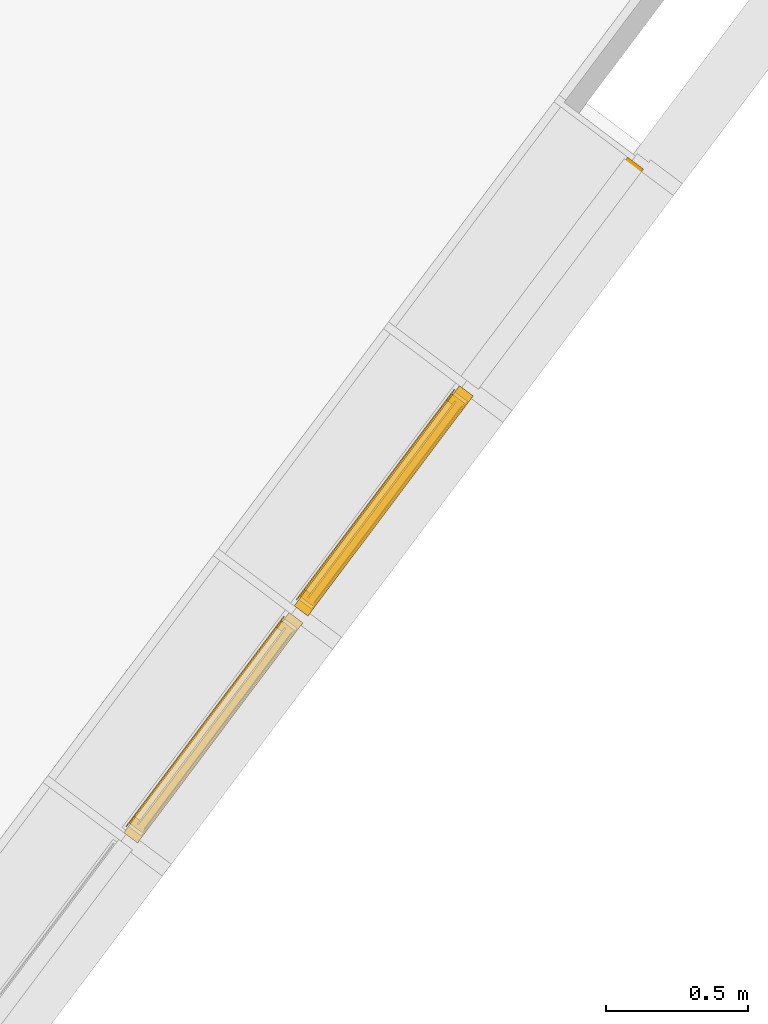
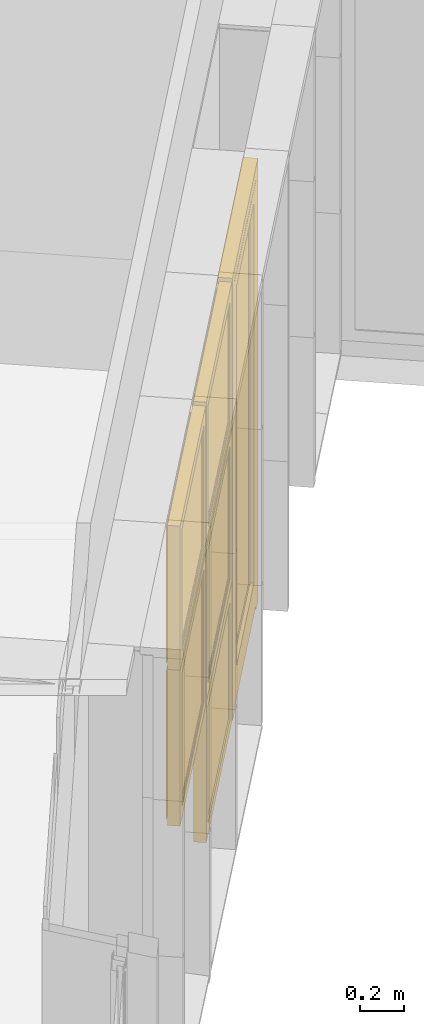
# One storey, part 201 of 243: 5 windows, 1 door, 1 element without a shape of its own.
"""IFC2X3 building model written with IfcOpenShell, lengths in metres."""

from ifc_helpers import new_model, entity, si_unit, converted_unit, derived_unit, direction, frame, origin, place, context, subcontext, project, spatial, faceted_brep, source, transform, mapped, material, material_list, type_object, type_shapes, element, aggregate, save


model = new_model("IFC2X3")

# Units and contexts
model_context = context("Model", 3, precision=1e-05, world=origin(), true_north=direction((6.123031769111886e-17, 1.0)))
body_context = subcontext(model_context, "Body", "Model", "MODEL_VIEW")
ifc_project = project(units=[si_unit("LENGTHUNIT", "METRE"), si_unit("AREAUNIT", "SQUARE_METRE"), si_unit("VOLUMEUNIT", "CUBIC_METRE"), converted_unit("PLANEANGLEUNIT", "DEGREE", entity("IfcRatioMeasure", 0.017453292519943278), si_unit("PLANEANGLEUNIT", "RADIAN"), dimensions=[0, 0, 0, 0, 0, 0, 0]), si_unit("MASSUNIT", "GRAM", prefix="KILO"), derived_unit("MASSDENSITYUNIT", [(si_unit("MASSUNIT", "GRAM", prefix="KILO"), 1), (si_unit("LENGTHUNIT", "METRE"), -3)]), derived_unit("IONCONCENTRATIONUNIT", [(si_unit("MASSUNIT", "GRAM", prefix="KILO"), 1), (si_unit("LENGTHUNIT", "METRE"), -3)]), derived_unit("MOMENTOFINERTIAUNIT", [(si_unit("LENGTHUNIT", "METRE"), 4)]), si_unit("TIMEUNIT", "SECOND"), si_unit("FREQUENCYUNIT", "HERTZ"), si_unit("THERMODYNAMICTEMPERATUREUNIT", "DEGREE_CELSIUS"), derived_unit("THERMALTRANSMITTANCEUNIT", [(si_unit("MASSUNIT", "GRAM", prefix="KILO"), 1), (si_unit("THERMODYNAMICTEMPERATUREUNIT", "KELVIN"), -1), (si_unit("TIMEUNIT", "SECOND"), -3)]), derived_unit("THERMALCONDUCTANCEUNIT", [(si_unit("MASSUNIT", "GRAM", prefix="KILO"), 1), (si_unit("THERMODYNAMICTEMPERATUREUNIT", "KELVIN"), -1), (si_unit("TIMEUNIT", "SECOND"), -3), (si_unit("LENGTHUNIT", "METRE"), 1)]), derived_unit("VOLUMETRICFLOWRATEUNIT", [(si_unit("LENGTHUNIT", "METRE"), 3), (si_unit("TIMEUNIT", "SECOND"), -1)]), derived_unit("MASSFLOWRATEUNIT", [(si_unit("MASSUNIT", "GRAM", prefix="KILO"), 1), (si_unit("TIMEUNIT", "SECOND"), -1)]), derived_unit("ROTATIONALFREQUENCYUNIT", [(si_unit("TIMEUNIT", "SECOND"), -1)]), si_unit("ELECTRICCURRENTUNIT", "AMPERE"), si_unit("ELECTRICVOLTAGEUNIT", "VOLT"), si_unit("POWERUNIT", "WATT"), si_unit("FORCEUNIT", "NEWTON", prefix="KILO"), si_unit("ILLUMINANCEUNIT", "LUX"), si_unit("LUMINOUSFLUXUNIT", "LUMEN"), si_unit("LUMINOUSINTENSITYUNIT", "CANDELA"), derived_unit("USERDEFINED", [(si_unit("MASSUNIT", "GRAM", prefix="KILO"), -1), (si_unit("LENGTHUNIT", "METRE"), -2), (si_unit("TIMEUNIT", "SECOND"), 3), (si_unit("LUMINOUSFLUXUNIT", "LUMEN"), 1)]), derived_unit("USERDEFINED", [(si_unit("MASSUNIT", "GRAM", prefix="KILO"), 1), (si_unit("TIMEUNIT", "SECOND"), -3), (si_unit("LENGTHUNIT", "METRE"), 3), (si_unit("ELECTRICCURRENTUNIT", "AMPERE"), -2)]), derived_unit("SOUNDPOWERUNIT", [(si_unit("MASSUNIT", "GRAM", prefix="KILO"), 1), (si_unit("TIMEUNIT", "SECOND"), -3), (si_unit("LENGTHUNIT", "METRE"), 2)]), derived_unit("SOUNDPRESSUREUNIT", [(si_unit("MASSUNIT", "GRAM", prefix="KILO"), 1), (si_unit("LENGTHUNIT", "METRE"), -1), (si_unit("TIMEUNIT", "SECOND"), -2)]), derived_unit("LINEARVELOCITYUNIT", [(si_unit("LENGTHUNIT", "METRE"), 1), (si_unit("TIMEUNIT", "SECOND"), -1)]), si_unit("PRESSUREUNIT", "PASCAL"), derived_unit("USERDEFINED", [(si_unit("MASSUNIT", "GRAM", prefix="KILO"), 1), (si_unit("LENGTHUNIT", "METRE"), -2), (si_unit("TIMEUNIT", "SECOND"), -2)]), derived_unit("LINEARFORCEUNIT", [(si_unit("MASSUNIT", "GRAM", prefix="KILO"), 1), (si_unit("TIMEUNIT", "SECOND"), -2)]), derived_unit("PLANARFORCEUNIT", [(si_unit("MASSUNIT", "GRAM", prefix="KILO"), 1), (si_unit("LENGTHUNIT", "METRE"), -1), (si_unit("TIMEUNIT", "SECOND"), -2)]), derived_unit("SPECIFICHEATCAPACITYUNIT", [(si_unit("THERMODYNAMICTEMPERATUREUNIT", "KELVIN"), -1), (si_unit("LENGTHUNIT", "METRE"), 2), (si_unit("TIMEUNIT", "SECOND"), -2)]), derived_unit("HEATINGVALUEUNIT", [(si_unit("LENGTHUNIT", "METRE"), 2), (si_unit("TIMEUNIT", "SECOND"), -2)]), derived_unit("VAPORPERMEABILITYUNIT", [(si_unit("LENGTHUNIT", "METRE"), -1), (si_unit("TIMEUNIT", "SECOND"), 1)]), derived_unit("DYNAMICVISCOSITYUNIT", [(si_unit("MASSUNIT", "GRAM", prefix="KILO"), 1), (si_unit("TIMEUNIT", "SECOND"), -1), (si_unit("LENGTHUNIT", "METRE"), -1)]), derived_unit("THERMALEXPANSIONCOEFFICIENTUNIT", [(si_unit("THERMODYNAMICTEMPERATUREUNIT", "KELVIN"), -1)]), derived_unit("MODULUSOFELASTICITYUNIT", [(si_unit("MASSUNIT", "GRAM", prefix="KILO"), 1), (si_unit("LENGTHUNIT", "METRE"), -1), (si_unit("TIMEUNIT", "SECOND"), -2)]), derived_unit("ISOTHERMALMOISTURECAPACITYUNIT", [(si_unit("LENGTHUNIT", "METRE"), 3), (si_unit("MASSUNIT", "GRAM", prefix="KILO"), -1)]), derived_unit("MOISTUREDIFFUSIVITYUNIT", [(si_unit("TIMEUNIT", "SECOND"), -1), (si_unit("LENGTHUNIT", "METRE"), 2)])], contexts=[model_context])

# Site, building, storey
site_placement = place(None, frame((0.0, 0.0, 235.0), z_axis=(0.0, 0.0, 1.0), x_axis=(-0.7996477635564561, 0.6004693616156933, 0.0)))
site = spatial("IfcSite", under=ifc_project, at=site_placement, Name="Default", CompositionType="ELEMENT")
building_placement = place(site_placement, origin())
building = spatial("IfcBuilding", under=site, at=building_placement, CompositionType="ELEMENT")
storey_placement = place(building_placement, origin())
storey = spatial("IfcBuildingStorey", under=building, at=storey_placement, Name="P0- Escola", CompositionType="ELEMENT", Elevation=0.0)

# Curtain wall, windows, door
curtain_wall_type = type_object("IfcCurtainWallType", Name="Muro cortina:MC- EXT- MC2", PredefinedType="NOTDEFINED")
curtain_wall_placement = place(storey_placement, origin())
curtain_wall = element("IfcCurtainWall", 1, at=curtain_wall_placement, inside=storey, type_object=curtain_wall_type, Name="Muro cortina:MC- EXT- MC2", ObjectType="Muro cortina:MC- EXT- MC2")
ifc_material_1 = material(Name="_Vidre")
ifc_material_2 = material(Name="_Alumini- T1- Perfil")
ifc_material_list_1 = material_list([ifc_material_1, ifc_material_2])
window_style_1 = type_object("IfcWindowStyle", Name="MC- Alu- Conjunt vidre fix- 62x60 cm:MC- Alu- Conjunt vidre fix- 62x60 cm", ConstructionType="NOTDEFINED", OperationType="NOTDEFINED", ParameterTakesPrecedence=False, Sizeable=False, material=ifc_material_list_1)
shared_shape_1 = source(origin(), body_context, "Body", "Brep", [
    faceted_brep([(0.4361932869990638, -0.007600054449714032, 0.048806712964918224), (0.4361932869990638, -0.03160022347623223, 0.048806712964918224), (-0.4361932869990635, -0.03160022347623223, 0.048806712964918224), (-0.4361932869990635, -0.007600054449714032, 0.048806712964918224), (0.4361932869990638, -0.007600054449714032, 0.7387000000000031), (-0.4361932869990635, -0.007600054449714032, 0.7387000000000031), (-0.4361932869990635, -0.03160022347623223, 0.7387000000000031), (0.4361932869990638, -0.03160022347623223, 0.7387000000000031)], [[[0, 1, 2, 3]], [[4, 0, 3, 5]], [[5, 3, 2, 6]], [[6, 2, 1, 7]], [[7, 1, 0, 4]], [[4, 5, 6, 7]]]),
    faceted_brep([(0.48499999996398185, -0.05999999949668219, 0.7877000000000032), (0.48499999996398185, -0.05999999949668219, 0.0), (0.48499999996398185, 0.0, 0.0), (0.48499999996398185, 0.0, 0.787700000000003), (-0.48499999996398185, 0.0, 0.7877000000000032), (-0.48499999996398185, 0.0, 0.0), (0.4221931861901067, 0.0, 0.7248931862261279), (-0.42219318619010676, 0.0, 0.724893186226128), (-0.4221931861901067, 0.0, 0.0628068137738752), (0.4221931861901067, 0.0, 0.06280681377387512), (-0.48499999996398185, -0.05999999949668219, 0.0), (-0.48499999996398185, -0.05999999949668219, 0.7877000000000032), (-0.42219603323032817, -0.05999999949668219, 0.7248960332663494), (0.42219603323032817, -0.05999999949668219, 0.7248960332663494), (0.42219603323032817, -0.05999999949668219, 0.0628039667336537), (-0.42219603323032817, -0.05999999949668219, 0.0628039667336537), (0.4221960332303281, -0.03160022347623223, 0.7248960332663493), (0.42219603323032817, -0.03160022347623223, 0.0628039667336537), (-0.42219603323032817, -0.03160022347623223, 0.06280396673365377), (-0.42219603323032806, -0.03160022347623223, 0.7248960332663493), (-0.43619328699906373, -0.03160022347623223, 0.738893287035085), (0.43619328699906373, -0.03160022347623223, 0.738893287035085), (0.43619328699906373, -0.03160022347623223, 0.048806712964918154), (-0.43619328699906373, -0.03160022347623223, 0.04880671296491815), (0.43619328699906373, -0.007600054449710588, 0.738893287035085), (0.43619328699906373, -0.007600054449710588, 0.04880671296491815), (-0.43619328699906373, -0.007600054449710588, 0.048806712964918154), (-0.43619328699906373, -0.007600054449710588, 0.738893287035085), (-0.42219318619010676, -0.007600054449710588, 0.724893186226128), (0.42219318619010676, -0.007600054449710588, 0.724893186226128), (0.42219318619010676, -0.007600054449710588, 0.06280681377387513), (-0.42219318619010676, -0.007600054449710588, 0.06280681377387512)], [[[0, 1, 2, 3]], [[4, 3, 2, 5], [6, 7, 8, 9]], [[1, 10, 5, 2]], [[0, 11, 10, 1], [12, 13, 14, 15]], [[16, 17, 14, 13]], [[17, 18, 15, 14]], [[16, 19, 18, 17], [20, 21, 22, 23]], [[24, 25, 22, 21]], [[25, 26, 23, 22]], [[24, 27, 26, 25], [28, 29, 30, 31]], [[6, 9, 30, 29]], [[9, 8, 31, 30]], [[10, 11, 4, 5]], [[18, 19, 12, 15]], [[26, 27, 20, 23]], [[8, 7, 28, 31]], [[11, 0, 3, 4]], [[19, 16, 13, 12]], [[27, 24, 21, 20]], [[7, 6, 29, 28]]], outer=[[True], [True, False], [True], [True, False], [True], [True], [False, True], [True], [True], [True, False], [True], [True], [True], [True], [True], [True], [True], [True], [True], [True]]),
])
type_shapes(window_style_1, [shared_shape_1])
window_1_placement = place(curtain_wall_placement, frame((66.44514768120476, -32.91519175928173, 0.03229999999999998), z_axis=(0.0, 0.0, 1.0), x_axis=(0.0, 1.0, 0.0)))
window_1 = element("IfcWindow", 2, at=window_1_placement, type_object=window_style_1, material=ifc_material_list_1, Name="MC- Alu- Conjunt vidre fix- 62x60 cm:MC- Alu- Conjunt vidre fix- 62x60 cm", ObjectType="MC- Alu- Conjunt vidre fix- 62x60 cm:MC- Alu- Conjunt vidre fix- 62x60 cm", OverallHeight=0.7877000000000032, OverallWidth=0.9699999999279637, context=body_context, shape_type="MappedRepresentation", body=[
    mapped(shared_shape_1, transform((0.0, 0.0, 0.0), scale=1.0)),
])
ifc_material_list_2 = material_list([ifc_material_2, ifc_material_1])
door_style = type_object("IfcDoorStyle", Name="MC- Alu- Conjunt porta- 70x60 cm- +15cm- obertura int:MC- Alu- Conjunt porta- 70x60 cm- +15cm- obertura int", ConstructionType="NOTDEFINED", OperationType="NOTDEFINED", ParameterTakesPrecedence=False, Sizeable=False, material=ifc_material_list_2)
shared_shape_2 = source(origin(), body_context, "Body", "Brep", [
    faceted_brep([(-0.4116999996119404, 0.0, 0.024000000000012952), (0.4116999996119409, 0.0, 0.024000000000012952), (0.4116999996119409, -0.06569970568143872, 0.024000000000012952), (-0.41169999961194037, -0.0656997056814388, 0.024000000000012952), (-0.4116999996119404, -0.0656997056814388, 2.410449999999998), (-0.4116999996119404, 0.0, 2.410449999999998), (0.41169999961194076, -0.06569970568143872, 2.410449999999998), (0.4356999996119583, -0.06569970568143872, 0.0), (-0.43569999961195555, -0.06569970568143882, 0.0), (-0.4356999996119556, -0.06569970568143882, 2.4344500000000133), (0.43569999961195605, -0.06569970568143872, 2.4344500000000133), (0.4116999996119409, 0.0, 2.410449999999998), (-0.3350999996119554, 0.0, 2.333850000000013), (-0.33509999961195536, 0.0, 0.20400000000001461), (0.33509999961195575, 0.0, 0.20400000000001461), (0.33509999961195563, 0.0, 2.333850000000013), (0.43569999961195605, -0.0699997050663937, 2.4344500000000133), (0.43569999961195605, -0.0699997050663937, 0.0), (-0.43569999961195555, -0.06999970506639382, 0.0), (-0.4356999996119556, -0.06999970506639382, 2.4344500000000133), (0.33509999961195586, -0.06999970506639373, 2.3338500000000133), (0.3350999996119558, -0.06999970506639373, 0.20400000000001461), (-0.33509999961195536, -0.06999970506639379, 0.20400000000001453), (-0.3350999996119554, -0.06999970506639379, 2.333850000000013), (0.33509999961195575, -0.06449970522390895, 2.333850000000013), (0.33509999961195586, -0.06449970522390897, 0.20400000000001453), (-0.33509999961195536, -0.06449970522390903, 0.20400000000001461), (-0.3350999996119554, -0.06449970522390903, 2.333850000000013), (0.3601000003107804, -0.06449970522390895, 2.3588500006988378), (0.3601000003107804, -0.06449970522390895, 0.17899999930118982), (-0.36010000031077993, -0.06449970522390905, 0.17899999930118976), (-0.36010000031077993, -0.06449970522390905, 2.3588500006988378), (0.3601000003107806, -0.01899970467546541, 2.3588500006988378), (0.3601000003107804, -0.01899970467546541, 0.17899999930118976), (-0.36010000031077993, -0.018999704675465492, 0.17899999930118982), (-0.36010000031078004, -0.01899970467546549, 2.3588500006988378), (0.33509999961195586, -0.018999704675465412, 2.3338500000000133), (0.33509999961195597, -0.018999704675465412, 0.20400000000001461), (-0.33509999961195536, -0.018999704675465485, 0.20400000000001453), (-0.3350999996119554, -0.018999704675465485, 2.333850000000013)], [[[0, 1, 2, 3]], [[4, 5, 0, 3]], [[2, 6, 4, 3], [7, 8, 9, 10]], [[2, 1, 11, 6]], [[11, 1, 0, 5], [12, 13, 14, 15]], [[16, 17, 7, 10]], [[8, 7, 17, 18]], [[18, 17, 16, 19], [20, 21, 22, 23]], [[24, 25, 21, 20]], [[21, 25, 26, 22]], [[27, 26, 25, 24], [28, 29, 30, 31]], [[32, 33, 29, 28]], [[33, 34, 30, 29]], [[35, 34, 33, 32], [36, 37, 38, 39]], [[15, 14, 37, 36]], [[37, 14, 13, 38]], [[9, 8, 18, 19]], [[23, 22, 26, 27]], [[31, 30, 34, 35]], [[39, 38, 13, 12]], [[19, 16, 10, 9]], [[27, 24, 20, 23]], [[35, 32, 28, 31]], [[12, 15, 36, 39]], [[4, 6, 11, 5]]], outer=[[True], [True], [False, True], [True], [True, False], [True], [True], [True, False], [True], [True], [False, True], [True], [True], [True, False], [True], [True], [True], [True], [True], [True], [True], [True], [True], [True], [True]]),
    faceted_brep([(0.3601000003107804, -0.06089980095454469, 0.17899999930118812), (-0.36010000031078, -0.06089980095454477, 0.17899999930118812), (-0.36010000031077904, -0.028899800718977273, 0.17899999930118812), (0.3601000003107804, -0.02889980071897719, 0.17899999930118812), (0.3601000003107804, -0.060899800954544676, 2.3588500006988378), (0.3601000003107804, -0.02889980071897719, 2.3588500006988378), (-0.36010000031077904, -0.028899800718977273, 2.3588500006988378), (-0.36010000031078, -0.06089980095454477, 2.3588500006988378)], [[[0, 1, 2, 3]], [[4, 0, 3, 5]], [[5, 3, 2, 6]], [[6, 2, 1, 7]], [[7, 1, 0, 4]], [[4, 5, 6, 7]]]),
    faceted_brep([(-0.48499999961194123, -0.06999999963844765, 0.0), (-0.48499999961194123, 0.0, 0.0), (-0.41769999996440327, 0.0, 0.0), (-0.41769999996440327, -0.008800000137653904, 0.0), (-0.43319996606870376, -0.008800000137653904, 0.0), (-0.43319996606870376, -0.059699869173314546, 0.0), (-0.4436999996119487, -0.059699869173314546, 0.0), (-0.4436999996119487, -0.06999999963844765, 0.0), (-0.44369999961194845, -0.06999999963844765, 2.442450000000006), (0.44369999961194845, -0.06999999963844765, 2.442450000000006), (0.44369999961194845, -0.06999999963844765, 0.0), (0.48499999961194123, -0.06999999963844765, 0.0), (0.48499999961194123, -0.06999999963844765, 2.4837499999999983), (-0.4849999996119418, -0.06999999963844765, 2.4837499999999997), (-0.4436999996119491, -0.059699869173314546, 2.442450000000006), (-0.43319996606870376, -0.059699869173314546, 2.4319499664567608), (0.43319996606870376, -0.059699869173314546, 2.4319499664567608), (0.43319996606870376, -0.059699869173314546, 0.0), (0.4436999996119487, -0.059699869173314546, 0.0), (0.44369999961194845, -0.059699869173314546, 2.442450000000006), (-0.433199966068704, -0.008800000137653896, 2.4319499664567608), (-0.41769999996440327, -0.008800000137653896, 2.4164500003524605), (0.41769999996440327, -0.008800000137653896, 2.4164500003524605), (0.41769999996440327, -0.008800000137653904, 0.0), (0.43319996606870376, -0.008800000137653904, 0.0), (0.43319996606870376, -0.008800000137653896, 2.4319499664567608), (-0.4176999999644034, 0.0, 2.4164500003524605), (-0.48499999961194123, 0.0, 2.4837499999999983), (0.48499999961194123, 0.0, 2.4837499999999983), (0.48499999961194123, 0.0, 0.0), (0.41769999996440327, 0.0, 0.0), (0.41769999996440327, 0.0, 2.4164500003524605)], [[[0, 1, 2, 3, 4, 5, 6, 7]], [[7, 8, 9, 10, 11, 12, 13, 0]], [[6, 14, 8, 7]], [[5, 15, 16, 17, 18, 19, 14, 6]], [[4, 20, 15, 5]], [[3, 21, 22, 23, 24, 25, 20, 4]], [[2, 26, 21, 3]], [[1, 27, 28, 29, 30, 31, 26, 2]], [[0, 13, 27, 1]], [[11, 10, 18, 17, 24, 23, 30, 29]], [[12, 11, 29, 28]], [[31, 30, 23, 22]], [[25, 24, 17, 16]], [[19, 18, 10, 9]], [[14, 19, 9, 8]], [[20, 25, 16, 15]], [[26, 31, 22, 21]], [[13, 12, 28, 27]]]),
])
type_shapes(door_style, [shared_shape_2])
door_placement = place(curtain_wall_placement, frame((66.44514768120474, -33.91519175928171, 0.020000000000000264), z_axis=(0.0, 0.0, 1.0), x_axis=(0.0, 1.0, 0.0)))
door = element("IfcDoor", 3, at=door_placement, type_object=door_style, material=ifc_material_list_2, Name="MC- Alu- Conjunt porta- 70x60 cm- +15cm- obertura int:MC- Alu- Conjunt porta- 70x60 cm- +15cm- obertura int", ObjectType="MC- Alu- Conjunt porta- 70x60 cm- +15cm- obertura int:MC- Alu- Conjunt porta- 70x60 cm- +15cm- obertura int", OverallHeight=2.483750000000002, OverallWidth=0.9699999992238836, context=body_context, shape_type="MappedRepresentation", body=[
    mapped(shared_shape_2, transform((0.0, 0.0, 0.0), scale=1.0)),
])
window_style_2 = type_object("IfcWindowStyle", Name="MC- Alu- Conjunt finestra basculant- 68x68 cm:MC- Alu- Conjunt finestra basculant- 68x68 cm", ConstructionType="NOTDEFINED", OperationType="NOTDEFINED", ParameterTakesPrecedence=False, Sizeable=False, material=ifc_material_list_1)
shared_shape_3 = source(origin(), body_context, "Body", "Brep", [
    faceted_brep([(0.43291170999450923, -0.03559830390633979, 0.051999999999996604), (-0.43291170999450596, -0.03559830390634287, 0.051999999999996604), (-0.43291170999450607, -0.011598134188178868, 0.051999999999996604), (0.43291170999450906, -0.011598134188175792, 0.051999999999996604), (0.43291170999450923, -0.035598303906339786, 0.8228027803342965), (0.43291170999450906, -0.011598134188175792, 0.8228027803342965), (-0.43291170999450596, -0.011598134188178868, 0.8228027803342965), (-0.43291170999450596, -0.03559830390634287, 0.8228027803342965)], [[[0, 1, 2, 3]], [[4, 0, 3, 5]], [[5, 3, 2, 6]], [[6, 2, 1, 7]], [[7, 1, 0, 4]], [[4, 5, 6, 7]]]),
    faceted_brep([(-0.4172108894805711, -0.009998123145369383, 0.8071019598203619), (-0.4172108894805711, -0.00999812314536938, 0.06789804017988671), (-0.4172108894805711, -0.007998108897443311, 0.06789804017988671), (-0.4172108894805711, -0.007998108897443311, 0.8071019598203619), (-0.44610892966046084, -0.007998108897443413, 0.8360000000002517), (0.44610892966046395, -0.007998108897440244, 0.8360000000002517), (0.44610892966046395, -0.007998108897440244, 0.03899999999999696), (-0.44610892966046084, -0.007998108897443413, 0.03899999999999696), (0.4172108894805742, -0.007998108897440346, 0.8071019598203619), (0.4172108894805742, -0.007998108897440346, 0.06789804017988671), (0.4172108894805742, -0.009998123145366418, 0.06789804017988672), (0.4172108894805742, -0.009998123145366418, 0.8071019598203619), (0.4329117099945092, -0.00999812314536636, 0.8228027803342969), (-0.43291170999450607, -0.009998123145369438, 0.8228027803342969), (-0.43291170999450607, -0.009998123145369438, 0.05219721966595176), (0.4329117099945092, -0.00999812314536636, 0.052197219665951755), (-0.4329117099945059, -0.04079986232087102, 0.8228027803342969), (-0.4329117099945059, -0.04079986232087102, 0.052197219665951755), (0.4329117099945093, -0.04079986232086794, 0.05219721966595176), (0.4329117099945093, -0.04079986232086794, 0.8228027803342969), (0.41721088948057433, -0.040799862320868, 0.8071019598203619), (-0.41721088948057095, -0.04079986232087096, 0.8071019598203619), (-0.41721088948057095, -0.04079986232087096, 0.06789804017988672), (0.41721088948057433, -0.040799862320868, 0.06789804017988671), (-0.4172108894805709, -0.06800005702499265, 0.8071019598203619), (-0.4172108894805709, -0.06800005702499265, 0.06789804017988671), (0.4172108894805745, -0.0680000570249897, 0.06789804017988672), (0.4172108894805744, -0.0680000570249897, 0.8071019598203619), (0.4636128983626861, -0.06800005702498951, 0.8535039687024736), (-0.4636128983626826, -0.06800005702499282, 0.8535039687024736), (-0.4636128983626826, -0.06800005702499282, 0.021496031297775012), (0.4636128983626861, -0.06800005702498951, 0.021496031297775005), (-0.4636128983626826, -0.0645000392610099, 0.8535039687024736), (-0.4636128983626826, -0.06450003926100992, 0.021496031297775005), (0.4636128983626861, -0.06450003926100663, 0.021496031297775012), (0.4636128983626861, -0.06450003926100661, 0.8535039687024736), (0.44610892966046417, -0.06450003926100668, 0.8360000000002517), (-0.4461089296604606, -0.06450003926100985, 0.8360000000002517), (-0.4461089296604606, -0.06450003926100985, 0.03899999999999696), (0.44610892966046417, -0.06450003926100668, 0.038999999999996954)], [[[0, 1, 2, 3]], [[4, 5, 6, 7], [8, 3, 2, 9]], [[1, 10, 9, 2]], [[0, 11, 10, 1], [12, 13, 14, 15]], [[16, 17, 14, 13]], [[17, 18, 15, 14]], [[16, 19, 18, 17], [20, 21, 22, 23]], [[24, 25, 22, 21]], [[25, 26, 23, 22]], [[24, 27, 26, 25], [28, 29, 30, 31]], [[32, 33, 30, 29]], [[33, 34, 31, 30]], [[32, 35, 34, 33], [36, 37, 38, 39]], [[4, 7, 38, 37]], [[7, 6, 39, 38]], [[10, 11, 8, 9]], [[18, 19, 12, 15]], [[26, 27, 20, 23]], [[34, 35, 28, 31]], [[6, 5, 36, 39]], [[11, 0, 3, 8]], [[19, 16, 13, 12]], [[27, 24, 21, 20]], [[35, 32, 29, 28]], [[5, 4, 37, 36]]], outer=[[True], [True, False], [True], [False, True], [True], [True], [True, False], [True], [True], [False, True], [True], [True], [True, False], [True], [True], [True], [True], [True], [True], [True], [True], [True], [True], [True], [True]]),
    faceted_brep([(0.42219318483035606, 0.0, 0.8121931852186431), (0.42219318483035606, 0.0, 0.06280681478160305), (0.42219318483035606, -0.0040000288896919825, 0.06280681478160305), (0.42219318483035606, -0.0040000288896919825, 0.8121931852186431), (-0.42219318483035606, -0.0040000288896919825, 0.8121931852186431), (-0.42219318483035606, -0.0040000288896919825, 0.06280681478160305), (0.4575998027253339, -0.0040000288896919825, 0.8475998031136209), (-0.4575998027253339, -0.0040000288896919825, 0.8475998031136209), (-0.4575998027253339, -0.0040000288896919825, 0.027400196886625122), (0.4575998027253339, -0.0040000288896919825, 0.02740019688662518), (-0.42219318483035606, 0.0, 0.06280681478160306), (-0.42219318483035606, 0.0, 0.8121931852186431), (-0.48499999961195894, 0.0, 0.875000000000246), (0.48499999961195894, 0.0, 0.875000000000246), (0.48499999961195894, 0.0, 0.0), (-0.48499999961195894, 0.0, 0.0), (0.48499999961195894, -0.05999999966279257, 0.875000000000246), (0.48499999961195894, -0.05999999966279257, 0.0), (-0.48499999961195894, -0.05999999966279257, 0.0), (-0.48499999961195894, -0.05999999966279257, 0.875000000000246), (-0.4575998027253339, -0.05999999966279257, 0.8475998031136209), (0.4575998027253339, -0.05999999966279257, 0.8475998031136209), (0.4575998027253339, -0.05999999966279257, 0.027400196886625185), (-0.4575998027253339, -0.05999999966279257, 0.02740019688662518)], [[[0, 1, 2, 3]], [[4, 3, 2, 5], [6, 7, 8, 9]], [[1, 10, 5, 2]], [[0, 11, 10, 1], [12, 13, 14, 15]], [[16, 17, 14, 13]], [[17, 18, 15, 14]], [[16, 19, 18, 17], [20, 21, 22, 23]], [[6, 9, 22, 21]], [[9, 8, 23, 22]], [[10, 11, 4, 5]], [[18, 19, 12, 15]], [[8, 7, 20, 23]], [[11, 0, 3, 4]], [[19, 16, 13, 12]], [[7, 6, 21, 20]]], outer=[[True], [False, True], [True], [False, True], [True], [True], [True, False], [True], [True], [True], [True], [True], [True], [True], [True]]),
])
type_shapes(window_style_2, [shared_shape_3])
window_2_placement = place(curtain_wall_placement, frame((66.44514768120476, -31.915191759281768, 0.8200000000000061), z_axis=(0.0, 0.0, 1.0), x_axis=(0.0, 1.0, 0.0)))
window_2 = element("IfcWindow", 4, at=window_2_placement, type_object=window_style_2, material=ifc_material_list_1, Name="MC- Alu- Conjunt finestra basculant- 68x68 cm:MC- Alu- Conjunt finestra basculant- 68x68 cm", ObjectType="MC- Alu- Conjunt finestra basculant- 68x68 cm:MC- Alu- Conjunt finestra basculant- 68x68 cm", OverallHeight=0.8750000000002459, OverallWidth=0.9699999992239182, context=body_context, shape_type="MappedRepresentation", body=[
    mapped(shared_shape_3, transform((0.0, 0.0, 0.0), scale=1.0)),
])
window_3_placement = place(curtain_wall_placement, frame((66.44514768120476, -32.91519175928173, 0.8200000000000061), z_axis=(0.0, 0.0, 1.0), x_axis=(0.0, 1.0, 0.0)))
window_3 = element("IfcWindow", 5, at=window_3_placement, type_object=window_style_2, material=ifc_material_list_1, Name="MC- Alu- Conjunt finestra basculant- 68x68 cm:MC- Alu- Conjunt finestra basculant- 68x68 cm", ObjectType="MC- Alu- Conjunt finestra basculant- 68x68 cm:MC- Alu- Conjunt finestra basculant- 68x68 cm", OverallHeight=0.8750000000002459, OverallWidth=0.9699999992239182, context=body_context, shape_type="MappedRepresentation", body=[
    mapped(shared_shape_3, transform((0.0, 0.0, 0.0), scale=1.0)),
])
window_style_3 = type_object("IfcWindowStyle", Name="MC- Alu- Conjunt finestra basculant- 68x68 cm:MC- Alu- Conjunt finestra basculant- 68x68 cm", ConstructionType="NOTDEFINED", OperationType="NOTDEFINED", ParameterTakesPrecedence=False, Sizeable=False, material=ifc_material_list_1)
shared_shape_4 = source(origin(), body_context, "Body", "Brep", [
    faceted_brep([(0.432911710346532, -0.03559830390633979, 0.051999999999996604), (-0.43291171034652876, -0.03559830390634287, 0.051999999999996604), (-0.4329117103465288, -0.011598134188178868, 0.051999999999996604), (0.43291171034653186, -0.011598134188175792, 0.051999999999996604), (0.432911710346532, -0.035598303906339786, 0.7565527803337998), (0.43291171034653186, -0.011598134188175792, 0.7565527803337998), (-0.43291171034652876, -0.011598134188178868, 0.7565527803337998), (-0.43291171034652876, -0.03559830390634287, 0.7565527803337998)], [[[0, 1, 2, 3]], [[4, 0, 3, 5]], [[5, 3, 2, 6]], [[6, 2, 1, 7]], [[7, 1, 0, 4]], [[4, 5, 6, 7]]]),
    faceted_brep([(-0.41721088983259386, -0.009998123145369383, 0.7408519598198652), (-0.41721088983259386, -0.00999812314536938, 0.06789804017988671), (-0.41721088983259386, -0.007998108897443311, 0.06789804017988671), (-0.41721088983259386, -0.007998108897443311, 0.7408519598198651), (-0.4461089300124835, -0.007998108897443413, 0.7697499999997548), (0.44610893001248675, -0.007998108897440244, 0.7697499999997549), (0.4461089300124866, -0.007998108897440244, 0.03899999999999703), (-0.44610893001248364, -0.007998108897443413, 0.03899999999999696), (0.41721088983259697, -0.007998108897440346, 0.7408519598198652), (0.41721088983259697, -0.007998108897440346, 0.06789804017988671), (0.41721088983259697, -0.009998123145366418, 0.06789804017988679), (0.41721088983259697, -0.009998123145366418, 0.7408519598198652), (0.4329117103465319, -0.00999812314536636, 0.7565527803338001), (-0.4329117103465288, -0.009998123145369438, 0.7565527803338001), (-0.4329117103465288, -0.009998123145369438, 0.05219721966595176), (0.4329117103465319, -0.00999812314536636, 0.052197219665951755), (-0.4329117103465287, -0.04079986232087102, 0.7565527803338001), (-0.4329117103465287, -0.04079986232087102, 0.052197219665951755), (0.4329117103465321, -0.04079986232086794, 0.05219721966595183), (0.4329117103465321, -0.04079986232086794, 0.7565527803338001), (0.41721088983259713, -0.040799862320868, 0.7408519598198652), (-0.41721088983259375, -0.04079986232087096, 0.7408519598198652), (-0.41721088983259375, -0.04079986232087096, 0.06789804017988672), (0.41721088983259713, -0.040799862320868, 0.06789804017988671), (-0.4172108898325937, -0.06800005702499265, 0.7408519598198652), (-0.4172108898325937, -0.06800005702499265, 0.06789804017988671), (0.41721088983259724, -0.0680000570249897, 0.06789804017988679), (0.4172108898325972, -0.0680000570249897, 0.7408519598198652), (0.4636128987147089, -0.06800005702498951, 0.7872539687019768), (-0.46361289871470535, -0.06800005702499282, 0.7872539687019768), (-0.46361289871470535, -0.06800005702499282, 0.021496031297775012), (0.4636128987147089, -0.06800005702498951, 0.021496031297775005), (-0.46361289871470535, -0.0645000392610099, 0.7872539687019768), (-0.46361289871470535, -0.06450003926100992, 0.021496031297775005), (0.4636128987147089, -0.06450003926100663, 0.02149603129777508), (0.4636128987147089, -0.06450003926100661, 0.7872539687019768), (0.4461089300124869, -0.06450003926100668, 0.7697499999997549), (-0.4461089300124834, -0.06450003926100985, 0.7697499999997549), (-0.4461089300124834, -0.06450003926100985, 0.03899999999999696), (0.4461089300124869, -0.06450003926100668, 0.038999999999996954)], [[[0, 1, 2, 3]], [[4, 5, 6, 7], [8, 3, 2, 9]], [[1, 10, 9, 2]], [[0, 11, 10, 1], [12, 13, 14, 15]], [[16, 17, 14, 13]], [[17, 18, 15, 14]], [[16, 19, 18, 17], [20, 21, 22, 23]], [[24, 25, 22, 21]], [[25, 26, 23, 22]], [[24, 27, 26, 25], [28, 29, 30, 31]], [[32, 33, 30, 29]], [[33, 34, 31, 30]], [[32, 35, 34, 33], [36, 37, 38, 39]], [[4, 7, 38, 37]], [[7, 6, 39, 38]], [[10, 11, 8, 9]], [[18, 19, 12, 15]], [[26, 27, 20, 23]], [[34, 35, 28, 31]], [[6, 5, 36, 39]], [[11, 0, 3, 8]], [[19, 16, 13, 12]], [[27, 24, 21, 20]], [[35, 32, 29, 28]], [[5, 4, 37, 36]]], outer=[[True], [True, False], [True], [False, True], [True], [True], [True, False], [True], [True], [False, True], [True], [True], [True, False], [True], [True], [True], [True], [True], [True], [True], [True], [True], [True], [True], [True]]),
    faceted_brep([(0.4221931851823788, 0.0, 0.7459431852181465), (0.4221931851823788, 0.0, 0.06280681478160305), (0.4221931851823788, -0.0040000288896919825, 0.06280681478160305), (0.4221931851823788, -0.0040000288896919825, 0.7459431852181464), (-0.4221931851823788, -0.0040000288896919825, 0.7459431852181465), (-0.4221931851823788, -0.0040000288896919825, 0.06280681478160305), (0.4575998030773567, -0.0040000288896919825, 0.7813498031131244), (-0.4575998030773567, -0.0040000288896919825, 0.7813498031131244), (-0.4575998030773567, -0.0040000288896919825, 0.027400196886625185), (0.4575998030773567, -0.0040000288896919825, 0.02740019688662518), (-0.4221931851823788, 0.0, 0.06280681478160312), (-0.4221931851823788, 0.0, 0.7459431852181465), (-0.48499999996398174, 0.0, 0.8087499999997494), (0.48499999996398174, 0.0, 0.8087499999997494), (0.48499999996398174, 0.0, 0.0), (-0.48499999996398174, 0.0, 0.0), (0.48499999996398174, -0.05999999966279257, 0.8087499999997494), (0.48499999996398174, -0.05999999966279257, 0.0), (-0.48499999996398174, -0.05999999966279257, 0.0), (-0.48499999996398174, -0.05999999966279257, 0.8087499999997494), (-0.4575998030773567, -0.05999999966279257, 0.7813498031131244), (0.4575998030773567, -0.05999999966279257, 0.7813498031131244), (0.4575998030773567, -0.05999999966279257, 0.027400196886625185), (-0.4575998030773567, -0.05999999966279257, 0.02740019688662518)], [[[0, 1, 2, 3]], [[4, 3, 2, 5], [6, 7, 8, 9]], [[1, 10, 5, 2]], [[0, 11, 10, 1], [12, 13, 14, 15]], [[16, 17, 14, 13]], [[17, 18, 15, 14]], [[16, 19, 18, 17], [20, 21, 22, 23]], [[6, 9, 22, 21]], [[9, 8, 23, 22]], [[10, 11, 4, 5]], [[18, 19, 12, 15]], [[8, 7, 20, 23]], [[11, 0, 3, 4]], [[19, 16, 13, 12]], [[7, 6, 21, 20]]], outer=[[True], [False, True], [True], [False, True], [True], [True], [True, False], [True], [True], [True], [True], [True], [True], [True], [True]]),
])
type_shapes(window_style_3, [shared_shape_4])
window_4_placement = place(curtain_wall_placement, frame((66.44514768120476, -31.915191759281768, 1.6950000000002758), z_axis=(0.0, 0.0, 1.0), x_axis=(0.0, 1.0, 0.0)))
window_4 = element("IfcWindow", 6, at=window_4_placement, type_object=window_style_3, material=ifc_material_list_1, Name="MC- Alu- Conjunt finestra basculant- 68x68 cm:MC- Alu- Conjunt finestra basculant- 68x68 cm", ObjectType="MC- Alu- Conjunt finestra basculant- 68x68 cm:MC- Alu- Conjunt finestra basculant- 68x68 cm", OverallHeight=0.8087499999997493, OverallWidth=0.9699999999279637, context=body_context, shape_type="MappedRepresentation", body=[
    mapped(shared_shape_4, transform((0.0, 0.0, 0.0), scale=1.0)),
])
window_5_placement = place(curtain_wall_placement, frame((66.44514768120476, -32.91519175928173, 1.6950000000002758), z_axis=(0.0, 0.0, 1.0), x_axis=(0.0, 1.0, 0.0)))
window_5 = element("IfcWindow", 7, at=window_5_placement, type_object=window_style_3, material=ifc_material_list_1, Name="MC- Alu- Conjunt finestra basculant- 68x68 cm:MC- Alu- Conjunt finestra basculant- 68x68 cm", ObjectType="MC- Alu- Conjunt finestra basculant- 68x68 cm:MC- Alu- Conjunt finestra basculant- 68x68 cm", OverallHeight=0.8087499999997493, OverallWidth=0.9699999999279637, context=body_context, shape_type="MappedRepresentation", body=[
    mapped(shared_shape_4, transform((0.0, 0.0, 0.0), scale=1.0)),
])
aggregate(curtain_wall, [window_1, door, window_2, window_3, window_4, window_5])

save(model, "model.ifc")
